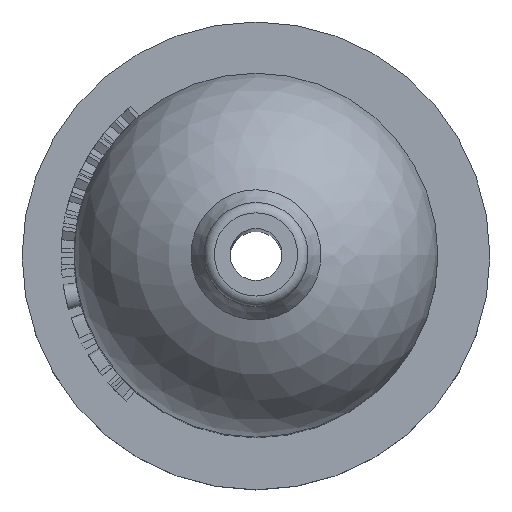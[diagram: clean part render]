
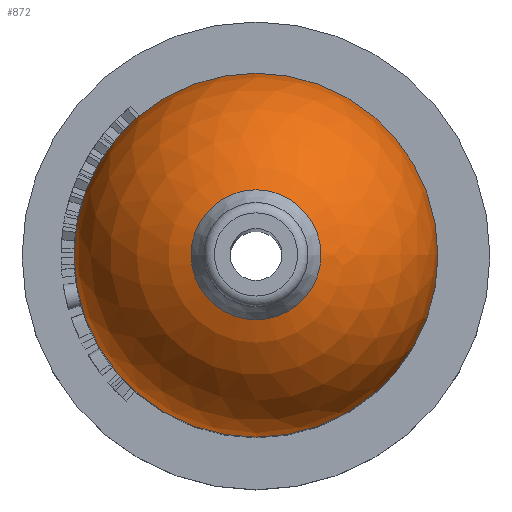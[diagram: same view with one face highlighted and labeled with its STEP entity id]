
A CAD part, top view. The second image highlights one B-rep face of the part: STEP entity #872.
In plain terms, the highlighted spherical face has radius 7 mm.
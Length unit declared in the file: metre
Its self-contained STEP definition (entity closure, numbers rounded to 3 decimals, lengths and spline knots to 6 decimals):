
#872 = ADVANCED_FACE( '', ( #1809, #1810 ), #1811, .T. );
#1809 = FACE_OUTER_BOUND( '', #6497, .T. );
#1810 = FACE_OUTER_BOUND( '', #6498, .T. );
#1811 = SPHERICAL_SURFACE( '', #6499, 0.007 );
#6497 = EDGE_LOOP( '', ( #9178 ) );
#6498 = EDGE_LOOP( '', ( #9179 ) );
#6499 = AXIS2_PLACEMENT_3D( '', #9180, #9181, #9182 );
#9178 = ORIENTED_EDGE( '', *, *, #9862, .F. );
#9179 = ORIENTED_EDGE( '', *, *, #10458, .T. );
#9180 = CARTESIAN_POINT( '', ( 0., 0., 0.01705 ) );
#9181 = DIRECTION( '', ( 0., 0., 1. ) );
#9182 = DIRECTION( '', ( 1., 0., 0. ) );
#9862 = EDGE_CURVE( '', #11198, #11198, #11199, .T. );
#10458 = EDGE_CURVE( '', #12009, #12009, #12010, .T. );
#11198 = VERTEX_POINT( '', #13679 );
#11199 = CIRCLE( '', #13680, 0.002 );
#12009 = VERTEX_POINT( '', #15550 );
#12010 = CIRCLE( '', #15551, 0.007 );
#13679 = CARTESIAN_POINT( '', ( 0.002, 0., 0.023758 ) );
#13680 = AXIS2_PLACEMENT_3D( '', #16032, #16033, #16034 );
#15550 = CARTESIAN_POINT( '', ( 0.007, 0., 0.01705 ) );
#15551 = AXIS2_PLACEMENT_3D( '', #16509, #16510, #16511 );
#16032 = CARTESIAN_POINT( '', ( 0., 0., 0.023758 ) );
#16033 = DIRECTION( '', ( 0., 0., 1. ) );
#16034 = DIRECTION( '', ( 1., 0., 0. ) );
#16509 = CARTESIAN_POINT( '', ( 0., 0., 0.01705 ) );
#16510 = DIRECTION( '', ( 0., 0., 1. ) );
#16511 = DIRECTION( '', ( 1., 0., 0. ) );
